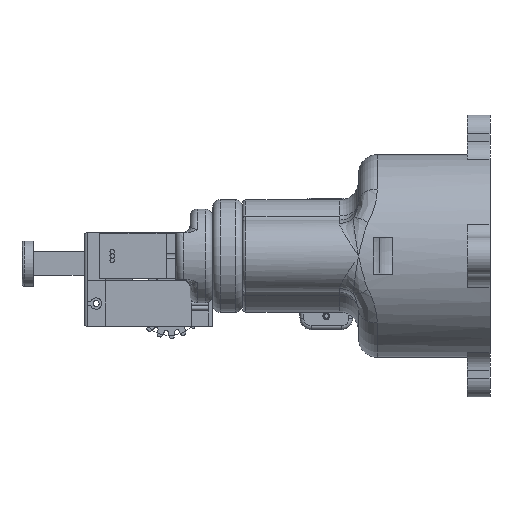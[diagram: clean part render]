
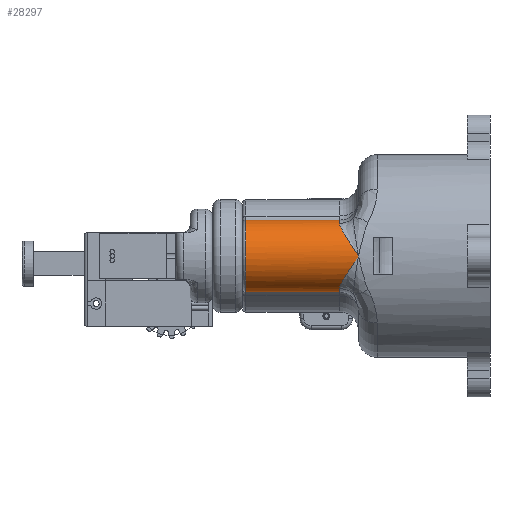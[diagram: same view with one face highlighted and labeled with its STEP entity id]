
A CAD part, front view. The second image highlights one B-rep face of the part: STEP entity #28297.
In plain terms, the highlighted cylindrical face has radius 9.569 mm (diameter 19.139 mm), a partial arc.
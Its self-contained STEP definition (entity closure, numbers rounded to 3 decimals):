
#6603=B_SPLINE_CURVE_WITH_KNOTS('',3,(#54532,#54533,#54534,#54535,#54536,
#54537,#54538,#54539),.UNSPECIFIED.,.F.,.F.,(4,2,1,1,4),(-5.411,
-5.408,-4.368,-4.021,-3.675),
 .UNSPECIFIED.);
#6608=B_SPLINE_CURVE_WITH_KNOTS('',3,(#54710,#54711,#54712,#54713,#54714,
#54715,#54716,#54717,#54718,#54719,#54720,#54721),.UNSPECIFIED.,.F.,.F.,
(4,1,1,1,1,1,1,2,4),(-1.734,-1.387,-1.214,
-1.04,-0.867,-0.694,-0.347,
0.,0.002),.UNSPECIFIED.);
#8050=FACE_OUTER_BOUND('',#9333,.T.);
#9333=EDGE_LOOP('',(#24517,#24518,#24519,#24520,#24521,#24522,#24523));
#10758=LINE('',#54708,#12691);
#10759=LINE('',#54724,#12692);
#12691=VECTOR('',#36153,10.);
#12692=VECTOR('',#36156,10.);
#14702=CIRCLE('',#30705,9.569);
#14718=CIRCLE('',#30741,9.569);
#14724=CIRCLE('',#30750,9.569);
#16394=VERTEX_POINT('',#54067);
#16432=VERTEX_POINT('',#54487);
#16433=VERTEX_POINT('',#54489);
#16462=VERTEX_POINT('',#54687);
#16464=VERTEX_POINT('',#54693);
#16468=VERTEX_POINT('',#54709);
#16469=VERTEX_POINT('',#54722);
#19250=EDGE_CURVE('',#16432,#16433,#14702,.T.);
#19252=EDGE_CURVE('',#16394,#16432,#6603,.T.);
#19301=EDGE_CURVE('',#16462,#16464,#14718,.T.);
#19307=EDGE_CURVE('',#16433,#16462,#10758,.T.);
#19308=EDGE_CURVE('',#16468,#16394,#6608,.T.);
#19309=EDGE_CURVE('',#16469,#16468,#14724,.T.);
#19310=EDGE_CURVE('',#16464,#16469,#10759,.T.);
#24517=ORIENTED_EDGE('',*,*,#19301,.F.);
#24518=ORIENTED_EDGE('',*,*,#19307,.F.);
#24519=ORIENTED_EDGE('',*,*,#19250,.F.);
#24520=ORIENTED_EDGE('',*,*,#19252,.F.);
#24521=ORIENTED_EDGE('',*,*,#19308,.F.);
#24522=ORIENTED_EDGE('',*,*,#19309,.F.);
#24523=ORIENTED_EDGE('',*,*,#19310,.F.);
#27464=CYLINDRICAL_SURFACE('',#30749,9.569);
#28297=ADVANCED_FACE('',(#8050),#27464,.T.);
#30705=AXIS2_PLACEMENT_3D('',#54490,#36038,#36039);
#30741=AXIS2_PLACEMENT_3D('',#54697,#36135,#36136);
#30749=AXIS2_PLACEMENT_3D('',#54707,#36151,#36152);
#30750=AXIS2_PLACEMENT_3D('',#54723,#36154,#36155);
#36038=DIRECTION('center_axis',(0.,1.,0.));
#36039=DIRECTION('ref_axis',(0.621,0.,-0.784));
#36135=DIRECTION('center_axis',(0.,-1.,0.));
#36136=DIRECTION('ref_axis',(1.,0.,0.));
#36151=DIRECTION('center_axis',(0.,-1.,0.));
#36152=DIRECTION('ref_axis',(1.,0.,0.));
#36153=DIRECTION('',(0.,-1.,0.));
#36154=DIRECTION('center_axis',(0.,1.,0.));
#36155=DIRECTION('ref_axis',(0.621,0.,0.784));
#36156=DIRECTION('',(0.,1.,0.));
#54067=CARTESIAN_POINT('',(27.,18.25,0.));
#54487=CARTESIAN_POINT('',(21.442,13.25,-8.688));
#54489=CARTESIAN_POINT('',(15.243,13.25,-9.316));
#54490=CARTESIAN_POINT('Origin',(17.431,13.25,0.));
#54532=CARTESIAN_POINT('Ctrl Pts',(27.,18.25,0.));
#54533=CARTESIAN_POINT('Ctrl Pts',(27.,18.247,-0.005));
#54534=CARTESIAN_POINT('Ctrl Pts',(27.,18.244,-0.01));
#54535=CARTESIAN_POINT('Ctrl Pts',(27.,16.87,-2.103));
#54536=CARTESIAN_POINT('Ctrl Pts',(26.064,14.993,-4.912));
#54537=CARTESIAN_POINT('Ctrl Pts',(23.439,13.518,-7.563));
#54538=CARTESIAN_POINT('Ctrl Pts',(22.131,13.25,-8.37));
#54539=CARTESIAN_POINT('Ctrl Pts',(21.442,13.25,-8.688));
#54687=CARTESIAN_POINT('',(15.243,-11.75,-9.316));
#54693=CARTESIAN_POINT('',(15.243,-11.75,9.316));
#54697=CARTESIAN_POINT('Origin',(17.431,-11.75,0.));
#54707=CARTESIAN_POINT('Origin',(17.431,18.25,0.));
#54708=CARTESIAN_POINT('',(15.243,18.25,-9.316));
#54709=CARTESIAN_POINT('',(21.442,13.25,8.688));
#54710=CARTESIAN_POINT('Ctrl Pts',(21.442,13.25,8.688));
#54711=CARTESIAN_POINT('Ctrl Pts',(22.131,13.25,8.37));
#54712=CARTESIAN_POINT('Ctrl Pts',(23.118,13.455,7.76));
#54713=CARTESIAN_POINT('Ctrl Pts',(24.224,13.96,6.77));
#54714=CARTESIAN_POINT('Ctrl Pts',(24.959,14.433,5.942));
#54715=CARTESIAN_POINT('Ctrl Pts',(25.586,14.979,5.044));
#54716=CARTESIAN_POINT('Ctrl Pts',(26.27,15.773,3.786));
#54717=CARTESIAN_POINT('Ctrl Pts',(26.844,16.862,2.109));
#54718=CARTESIAN_POINT('Ctrl Pts',(26.999,17.782,0.711));
#54719=CARTESIAN_POINT('Ctrl Pts',(27.,18.244,0.01));
#54720=CARTESIAN_POINT('Ctrl Pts',(27.,18.247,0.005));
#54721=CARTESIAN_POINT('Ctrl Pts',(27.,18.25,0.));
#54722=CARTESIAN_POINT('',(15.243,13.25,9.316));
#54723=CARTESIAN_POINT('Origin',(17.431,13.25,0.));
#54724=CARTESIAN_POINT('',(15.243,18.25,9.316));
